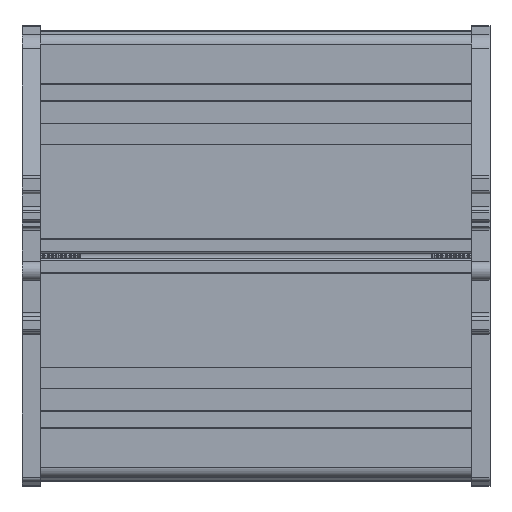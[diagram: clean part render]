
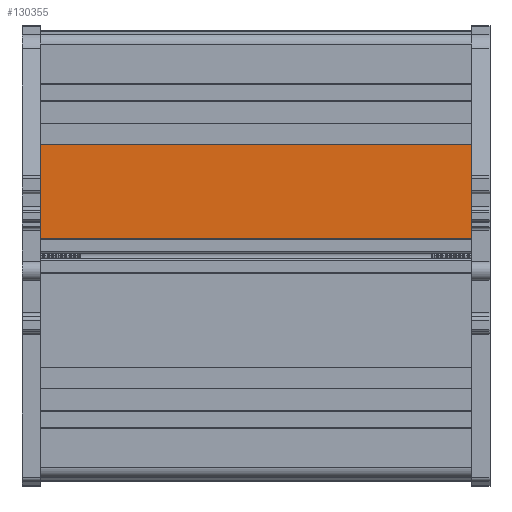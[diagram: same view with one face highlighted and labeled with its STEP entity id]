
A CAD part, front view. The second image highlights one B-rep face of the part: STEP entity #130355.
In plain terms, the highlighted planar face has unit normal (0, -1, 0).
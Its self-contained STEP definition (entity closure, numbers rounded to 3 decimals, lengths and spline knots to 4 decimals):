
#44823=DIRECTION('',(-1.,0.,0.));
#44824=VECTOR('',#44823,4.783);
#44825=CARTESIAN_POINT('',(2.3915,-0.563,1.2007));
#44826=LINE('',#44825,#44824);
#44827=DIRECTION('',(0.,0.,1.));
#44828=VECTOR('',#44827,1.0709);
#44829=CARTESIAN_POINT('',(-2.3915,-0.563,
0.1298));
#44830=LINE('',#44829,#44828);
#44831=DIRECTION('',(0.,0.,1.));
#44832=VECTOR('',#44831,1.0709);
#44833=CARTESIAN_POINT('',(2.3915,-0.563,0.1298));
#44834=LINE('',#44833,#44832);
#44835=DIRECTION('',(-1.,0.,0.));
#44836=VECTOR('',#44835,4.783);
#44837=CARTESIAN_POINT('',(2.3915,-0.563,0.1298));
#44838=LINE('',#44837,#44836);
#63758=CARTESIAN_POINT('',(2.3915,-0.563,0.1298));
#63759=VERTEX_POINT('',#63758);
#63760=CARTESIAN_POINT('',(2.3915,-0.563,1.2007));
#63761=VERTEX_POINT('',#63760);
#65104=CARTESIAN_POINT('',(-2.3915,-0.563,
0.1298));
#65105=VERTEX_POINT('',#65104);
#65106=CARTESIAN_POINT('',(-2.3915,-0.563,
1.2007));
#65107=VERTEX_POINT('',#65106);
#130343=CARTESIAN_POINT('',(2.3915,-0.563,0.1298));
#130344=DIRECTION('',(0.,-1.,0.));
#130345=DIRECTION('',(0.,0.,1.));
#130346=AXIS2_PLACEMENT_3D('',#130343,#130344,#130345);
#130347=PLANE('',#130346);
#130348=ORIENTED_EDGE('',*,*,#74343,.T.);
#130349=ORIENTED_EDGE('',*,*,#130338,.F.);
#130350=ORIENTED_EDGE('',*,*,#74127,.F.);
#130352=ORIENTED_EDGE('',*,*,#130351,.T.);
#130353=EDGE_LOOP('',(#130348,#130349,#130350,#130352));
#130354=FACE_OUTER_BOUND('',#130353,.F.);
#130355=ADVANCED_FACE('',(#130354),#130347,.T.);
#74127=EDGE_CURVE('',#63759,#63761,#44834,.T.);
#74343=EDGE_CURVE('',#65105,#65107,#44830,.T.);
#130338=EDGE_CURVE('',#63761,#65107,#44826,.T.);
#130351=EDGE_CURVE('',#63759,#65105,#44838,.T.);
